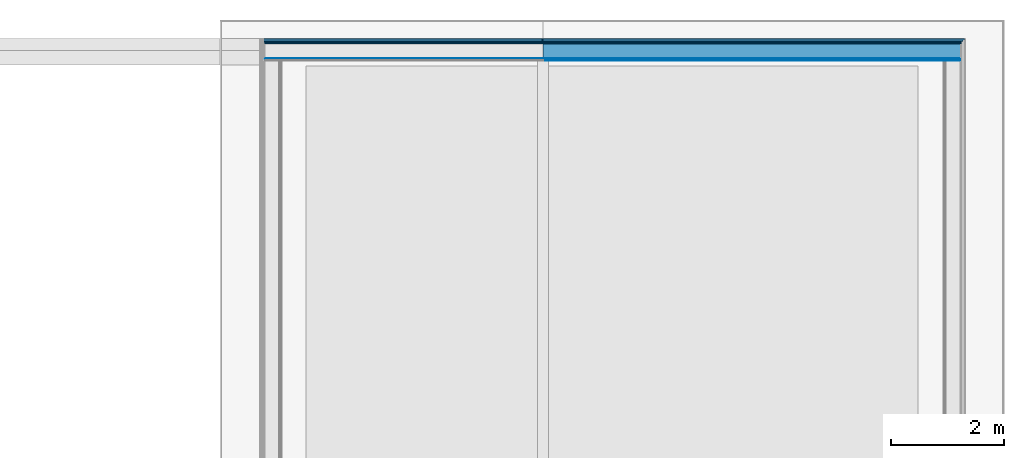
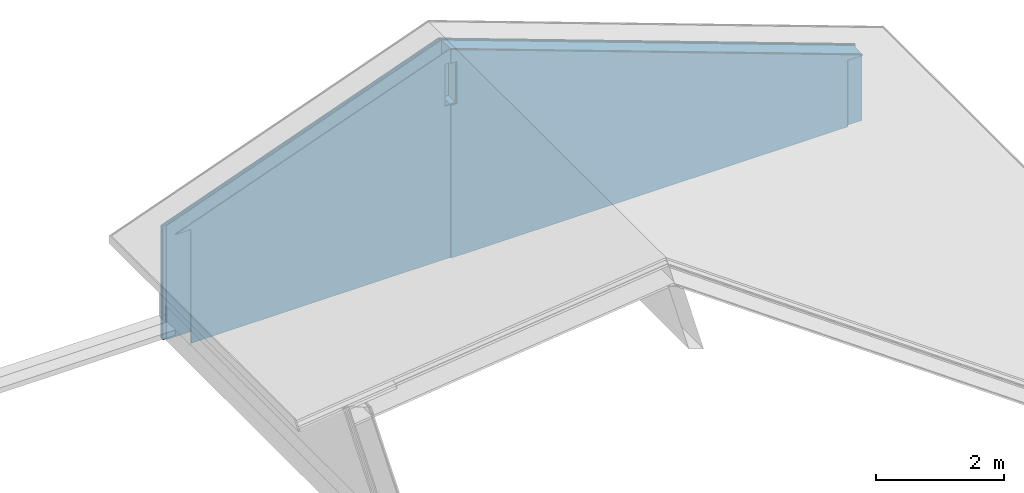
# One storey, part 10 of 12: 10 building element parts, 3 elements without a shape of their own.
"""IFC4 building model written with IfcOpenShell, lengths in millimetres."""

from ifc_helpers import new_model, entity, si_unit, converted_unit, derived_unit, direction, frame, origin_with_axes, place, context, subcontext, project, spatial, polygons, material, type_object, element, aggregate, save


model = new_model("IFC4")

# Units and contexts
model_context = context("Model", 3, precision=0.01, world=origin_with_axes(), true_north=direction((0.0, 1.0)))
body_context = subcontext(model_context, "Body", "Model", "MODEL_VIEW")
ifc_project = project(units=[si_unit("LENGTHUNIT", "METRE", prefix="MILLI"), si_unit("AREAUNIT", "SQUARE_METRE"), si_unit("VOLUMEUNIT", "CUBIC_METRE"), converted_unit("PLANEANGLEUNIT", "DEGREE", entity("IfcPlaneAngleMeasure", 0.0174532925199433), si_unit("PLANEANGLEUNIT", "RADIAN"), dimensions=[0, 0, 0, 0, 0, 0, 0]), converted_unit("TIMEUNIT", "Year", entity("IfcTimeMeasure", 31557600.0), si_unit("TIMEUNIT", "SECOND"), dimensions=[0, 0, 1, 0, 0, 0, 0]), si_unit("MASSUNIT", "GRAM", prefix="KILO"), si_unit("THERMODYNAMICTEMPERATUREUNIT", "DEGREE_CELSIUS"), si_unit("LUMINOUSINTENSITYUNIT", "LUMEN"), si_unit("ENERGYUNIT", "JOULE", prefix="MEGA"), derived_unit("THERMALCONDUCTANCEUNIT", [(si_unit("POWERUNIT", "WATT"), 1), (si_unit("LENGTHUNIT", "METRE"), -1), (si_unit("THERMODYNAMICTEMPERATUREUNIT", "KELVIN"), -1)]), derived_unit("SPECIFICHEATCAPACITYUNIT", [(si_unit("ENERGYUNIT", "JOULE"), 1), (si_unit("MASSUNIT", "GRAM", prefix="KILO"), -1), (si_unit("THERMODYNAMICTEMPERATUREUNIT", "KELVIN"), -1)]), derived_unit("MASSDENSITYUNIT", [(si_unit("MASSUNIT", "GRAM", prefix="KILO"), 1), (si_unit("VOLUMEUNIT", "CUBIC_METRE"), -1)])], contexts=[model_context])

# Site, building, storey
site_placement = place(None, origin_with_axes())
site = spatial("IfcSite", under=ifc_project, at=site_placement, Name="Gelände", CompositionType="ELEMENT")
building_placement = place(site_placement, origin_with_axes())
building = spatial("IfcBuilding", under=site, at=building_placement, Name="Gebäude", CompositionType="ELEMENT")
storey_placement = place(building_placement, frame((0.0, 0.0, 11600.0), z_axis=(0.0, 0.0, 1.0), x_axis=(1.0, 0.0, 0.0)))
storey = spatial("IfcBuildingStorey", under=building, at=storey_placement, Name="Dachaufsicht", CompositionType="ELEMENT", Elevation=11600.0)

# Wall, building element parts
wall_type = type_object("IfcWallType", Name="Aussenwand Typ 01 318", PredefinedType="NOTDEFINED")
wall_1_placement = place(storey_placement, frame((32857.99744477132, 37876.59728131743, 500.0), z_axis=(0.0, 0.0, 1.0), x_axis=(-1.0, 0.0, 0.0)))
wall_1 = element("IfcWall", 1, at=wall_1_placement, inside=storey, type_object=wall_type, Name="Wand-014", PredefinedType="NOTDEFINED")
ifc_material_1 = material(Name="Verputz Innen")
building_element_part_1_placement = place(wall_1_placement, origin_with_axes())
building_element_part_1 = element("IfcBuildingElementPart", 2, at=building_element_part_1_placement, material=ifc_material_1, Name="Verputz Innen", PredefinedType="NOTDEFINED", context=body_context, shape_type="Tessellation", body=[
    polygons([(7429.0000003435, 307.9999999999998, 0.0), (7429.0000003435, 307.9999999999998, 2903.934870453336), (7329.000000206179, 307.9999846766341, 2903.934870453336), (7329.000000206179, 307.9999846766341, 3703.934870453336), (7429.0000003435, 307.9999999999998, 3703.934870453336), (7429.0000003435, 307.9999999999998, 3964.658398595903), (18.00000043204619, 307.9999944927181, 1267.275017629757), (307.9999999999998, 307.9999846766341, 1267.275017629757), (307.9999999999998, 307.9999999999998, 0.0), (7429.0000003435, 317.9999999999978, 2903.934870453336), (7429.0000003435, 317.9999999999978, 0.0), (7329.000000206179, 318.0000160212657, 2903.934870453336), (7329.000000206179, 318.0000160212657, 3703.934870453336), (7429.0000003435, 317.9999999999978, 3703.934870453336), (7429.0000003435, 317.9999999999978, 3964.658398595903), (18.00000043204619, 318.0000160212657, 1267.275017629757), (307.9999999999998, 318.0000160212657, 1267.275017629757), (307.9999999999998, 317.9999999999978, 0.0)], [[[1, 2, 3, 4, 5, 6, 7, 8, 9]], [[10, 2, 1, 11]], [[2, 10, 12, 3]], [[3, 12, 13, 4]], [[14, 5, 4, 13]], [[14, 15, 6, 5]], [[6, 15, 16, 7]], [[16, 17, 8, 7]], [[9, 8, 17, 18]], [[11, 1, 9, 18]], [[15, 14, 13, 12, 10, 11, 18, 17, 16]]], closed=True),
])
ifc_material_2 = material(Name="Gipsfaserplatte GFP")
building_element_part_2_placement = place(wall_1_placement, origin_with_axes())
building_element_part_2 = element("IfcBuildingElementPart", 3, at=building_element_part_2_placement, material=ifc_material_2, Name="Gipsfaserplatte GFP", PredefinedType="NOTDEFINED", context=body_context, shape_type="Tessellation", body=[
    polygons([(7429.0000003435, 292.9999999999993, 0.0), (7429.0000003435, 292.9999999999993, 2903.934870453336), (7329.000000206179, 292.9999999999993, 2903.934870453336), (7329.000000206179, 292.9999999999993, 3703.934870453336), (7429.0000003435, 292.9999999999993, 3703.934870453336), (7429.0000003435, 292.9999999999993, 3964.658398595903), (18.00000043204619, 292.9999999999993, 1267.275017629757), (292.9999999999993, 292.9999999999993, 1267.275017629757), (292.9999999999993, 292.9999999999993, 0.0), (7429.0000003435, 307.9999999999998, 2903.934870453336), (7429.0000003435, 307.9999999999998, 0.0), (7329.000000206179, 307.9999846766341, 2903.934870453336), (7329.000000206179, 307.9999846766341, 3703.934870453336), (7429.0000003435, 307.9999999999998, 3703.934870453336), (7429.0000003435, 307.9999999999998, 3964.658398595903), (18.00000043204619, 307.9999944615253, 1267.275017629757), (292.9999999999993, 307.9999846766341, 1267.275017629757), (292.9999999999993, 307.9999999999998, 0.0)], [[[1, 2, 3, 4, 5, 6, 7, 8, 9]], [[10, 2, 1, 11]], [[2, 10, 12, 3]], [[3, 12, 13, 4]], [[14, 5, 4, 13]], [[14, 15, 6, 5]], [[6, 15, 16, 7]], [[16, 17, 8, 7]], [[9, 8, 17, 18]], [[11, 1, 9, 18]], [[15, 14, 13, 12, 10, 11, 18, 17, 16]]], closed=True),
])
building_element_part_3_placement = place(wall_1_placement, origin_with_axes())
building_element_part_3 = element("IfcBuildingElementPart", 4, at=building_element_part_3_placement, material=ifc_material_2, Name="Gipsfaserplatte GFP", PredefinedType="NOTDEFINED", context=body_context, shape_type="Tessellation", body=[
    polygons([(7429.0000003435, 292.9999999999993, 3964.658398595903), (7429.0000003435, 292.9999999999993, 3703.934870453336), (7329.000000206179, 292.9999999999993, 3703.934870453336), (7329.000000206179, 292.9999999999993, 2903.934870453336), (7429.0000003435, 292.9999999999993, 2903.934870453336), (7429.0000003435, 292.9999999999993, 0.0), (277.9999999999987, 292.9999999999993, 0.0), (277.9999999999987, 292.9999999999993, 1267.275017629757), (18.00000043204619, 293.0000000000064, 1267.275017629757), (7429.0000003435, 277.9999999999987, 3964.658398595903), (7429.0000003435, 277.9999999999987, 3703.934870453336), (7329.000000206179, 278.0000112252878, 3703.934870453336), (7329.000000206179, 278.0000112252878, 2903.934870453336), (7429.0000003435, 277.9999999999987, 2903.934870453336), (7429.0000003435, 277.9999999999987, 0.0), (277.9999999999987, 277.9999999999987, 0.0), (277.9999999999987, 278.0000112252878, 1267.275017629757), (18.00000043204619, 278.0000040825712, 1267.275017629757)], [[[1, 2, 3, 4, 5, 6, 7, 8, 9]], [[2, 1, 10, 11]], [[2, 11, 12, 3]], [[13, 4, 3, 12]], [[14, 5, 4, 13]], [[5, 14, 15, 6]], [[6, 15, 16, 7]], [[16, 17, 8, 7]], [[9, 8, 17, 18]], [[10, 1, 9, 18]], [[15, 14, 13, 12, 11, 10, 18, 17, 16]]], closed=True),
])
ifc_material_3 = material(Name="Ständer Konstruktion gedämmt")
building_element_part_4_placement = place(wall_1_placement, origin_with_axes())
building_element_part_4 = element("IfcBuildingElementPart", 5, at=building_element_part_4_placement, material=ifc_material_3, Name="Ständer Konstruktion gedämmt", PredefinedType="NOTDEFINED", context=body_context, shape_type="Tessellation", body=[
    polygons([(7429.0000003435, 18.00000000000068, 0.0), (7429.0000003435, 18.00000000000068, 3964.658398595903), (18.00000000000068, 18.0000001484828, 1267.275017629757), (18.00000000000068, 18.00000000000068, 0.0), (7429.0000003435, 277.9999999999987, 0.0), (7429.0000003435, 277.9999999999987, 2903.934870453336), (7429.0000003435, 58.00000000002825, 2903.934870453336), (7429.0000003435, 58.00000000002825, 3703.934870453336), (7429.0000003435, 277.9999999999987, 3703.934870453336), (7429.0000003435, 277.9999999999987, 3964.658398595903), (18.00000000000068, 278.0000112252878, 1267.275017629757), (18.00000000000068, 278.0000000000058, 0.0), (7329.000000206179, 278.0000112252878, 3703.934870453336), (7329.000000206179, 278.0000112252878, 2903.934870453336), (7329.000000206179, 58.00000000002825, 2903.934870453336), (7329.000000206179, 58.00000000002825, 3703.934870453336)], [[[1, 2, 3, 4]], [[5, 6, 7, 8, 9, 10, 2, 1]], [[2, 10, 11, 3]], [[11, 12, 4, 3]], [[5, 1, 4, 12]], [[6, 5, 12, 11, 10, 9, 13, 14]], [[7, 6, 14, 15]], [[7, 15, 16, 8]], [[13, 9, 8, 16]], [[14, 13, 16, 15]]], closed=True),
])
ifc_material_4 = material(Name="Grobspanplatte-OSB")
building_element_part_5_placement = place(wall_1_placement, origin_with_axes())
building_element_part_5 = element("IfcBuildingElementPart", 6, at=building_element_part_5_placement, material=ifc_material_4, Name="Grobspanplatte-OSB", PredefinedType="NOTDEFINED", context=body_context, shape_type="Tessellation", body=[
    polygons([(7429.0000003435, 0.0, 0.0), (7429.0000003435, 0.0, 3964.658398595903), (9.244160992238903e-09, 0.0, 1260.72355325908), (1.78879844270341e-06, 0.0, 0.0), (7429.0000003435, 18.00000000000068, 3964.658398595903), (7429.0000003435, 18.00000000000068, 0.0), (1.219980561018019e-06, 18.00000004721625, 1260.723553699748), (1.78879844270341e-06, 18.00000000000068, 0.0)], [[[1, 2, 3, 4]], [[5, 2, 1, 6]], [[2, 5, 7, 3]], [[7, 8, 4, 3]], [[6, 1, 4, 8]], [[5, 6, 8, 7]]], closed=True),
])
aggregate(wall_1, [building_element_part_1, building_element_part_2, building_element_part_3, building_element_part_4, building_element_part_5])

wall_2_placement = place(storey_placement, frame((25428.99744442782, 37876.59728131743, 500.0), z_axis=(0.0, 0.0, 1.0), x_axis=(-1.0, 0.0, 0.0)))
wall_2 = element("IfcWall", 7, at=wall_2_placement, inside=storey, type_object=wall_type, Name="Wand-014", PredefinedType="NOTDEFINED")
building_element_part_6_placement = place(wall_2_placement, origin_with_axes())
building_element_part_6 = element("IfcBuildingElementPart", 8, at=building_element_part_6_placement, material=ifc_material_2, Name="Gipsfaserplatte GFP", PredefinedType="NOTDEFINED", context=body_context, shape_type="Tessellation", body=[
    polygons([(4941.99999919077, 277.9999931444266, 2165.91752631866), (3.202416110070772e-08, 277.9999999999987, 3964.658423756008), (0.0, 277.9999999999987, 3703.934870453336), (99.99999986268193, 277.9999880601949, 3703.934870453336), (99.99999986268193, 277.9999880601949, 2903.934870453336), (0.0, 277.9999999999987, 2903.934870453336), (0.0, 277.9999999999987, 0.0), (4666.999999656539, 277.9999999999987, 0.0), (4666.999999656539, 277.9999880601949, 2165.91752631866), (4941.99999919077, 292.9999999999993, 2165.91752631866), (3.202416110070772e-08, 292.9999999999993, 3964.658423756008), (0.0, 292.9999999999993, 3703.934870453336), (99.99999986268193, 292.9999999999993, 3703.934870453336), (99.99999986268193, 292.9999999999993, 2903.934870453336), (0.0, 292.9999999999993, 2903.934870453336), (0.0, 292.9999999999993, 0.0), (4666.999999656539, 292.9999999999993, 0.0), (4666.999999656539, 292.9999999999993, 2165.91752631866)], [[[1, 2, 3, 4, 5, 6, 7, 8, 9]], [[2, 1, 10, 11]], [[2, 11, 12, 3]], [[3, 12, 13, 4]], [[4, 13, 14, 5]], [[6, 5, 14, 15]], [[15, 16, 7, 6]], [[17, 8, 7, 16]], [[9, 8, 17, 18]], [[10, 1, 9, 18]], [[11, 10, 18, 17, 16, 15, 14, 13, 12]]], closed=True),
])
building_element_part_7_placement = place(wall_2_placement, origin_with_axes())
building_element_part_7 = element("IfcBuildingElementPart", 9, at=building_element_part_7_placement, material=ifc_material_4, Name="Grobspanplatte-OSB", PredefinedType="NOTDEFINED", context=body_context, shape_type="Tessellation", body=[
    polygons([(4941.999999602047, 0.0, 2165.917526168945), (3.202416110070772e-08, 0.0, 3964.658423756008), (0.0, 0.0, 0.0), (4941.999999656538, 0.0, 0.0), (4941.999999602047, 18.00000655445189, 2165.917526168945), (3.202416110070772e-08, 18.00000000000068, 3964.658423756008), (0.0, 18.00000000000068, 0.0), (4941.999999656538, 18.00000000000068, 0.0)], [[[1, 2, 3, 4]], [[2, 1, 5, 6]], [[2, 6, 7, 3]], [[4, 3, 7, 8]], [[5, 1, 4, 8]], [[6, 5, 8, 7]]], closed=True),
])
aggregate(wall_2, [building_element_part_6, building_element_part_7])

# Curtain wall, building element parts
curtain_wall_type = type_object("IfcCurtainWallType", Name="Fassade Typ 02 - Vertikale Schalung 71", PredefinedType="NOTDEFINED")
curtain_wall_placement = place(storey_placement, frame((32928.99744408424, 37947.59728063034, 499.999999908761), z_axis=(0.0, 0.0, 1.0), x_axis=(-1.0, 0.0, 0.0)))
curtain_wall = element("IfcCurtainWall", 10, at=curtain_wall_placement, inside=storey, type_object=curtain_wall_type, Name="Wand-014", PredefinedType="NOTDEFINED")
ifc_material_5 = material(Name="Lattenrost vertikal")
building_element_part_8_placement = place(curtain_wall_placement, origin_with_axes())
building_element_part_8 = element("IfcBuildingElementPart", 11, at=building_element_part_8_placement, material=ifc_material_5, Name="Lattenrost vertikal", PredefinedType="NOTDEFINED", context=body_context, shape_type="Tessellation", body=[
    polygons([(12499.99999927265, 46.00000068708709, 466.1732444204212), (70.99999999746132, 45.99999700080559, 466.1732422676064), (70.99999999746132, 46.00000000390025, 0.0), (12499.99999931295, 46.00000068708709, 0.0), (71.00000016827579, 71.00001806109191, 468.641173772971), (12499.9999993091, 70.99999993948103, 468.641173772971), (70.99999999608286, 71.00000000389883, 0.0), (12499.99999931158, 71.00000068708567, 0.0)], [[[1, 2, 3, 4]], [[5, 2, 1, 6]], [[2, 5, 7, 3]], [[4, 3, 7, 8]], [[6, 1, 4, 8]], [[5, 6, 8, 7]]], closed=True),
    polygons([(12499.999999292, 46.00000068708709, 2144.807252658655), (7517.999999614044, 45.99999717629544, 3958.106959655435), (7499.999999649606, 45.99999716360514, 3958.106959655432), (70.99999999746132, 45.99999192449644, 1254.172089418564), (70.99999999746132, 45.99999698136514, 469.1902154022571), (12499.99999927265, 46.00000068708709, 469.1902176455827), (7517.999999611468, 71.00000447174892, 3958.106959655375), (12499.99999931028, 71.0000002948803, 2144.807252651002), (7499.99999964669, 71.00000448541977, 3958.106959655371), (70.9999999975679, 71.0000102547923, 1254.172089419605), (70.99999999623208, 68.30001690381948, 501.6508769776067), (70.99999999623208, 68.30001690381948, 471.4821269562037), (71.00000016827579, 71.00001806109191, 501.6508769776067), (12499.99999930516, 68.29999878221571, 471.4821269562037), (12499.99999930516, 68.29999878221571, 501.6508769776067), (12499.9999993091, 70.99999993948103, 501.6508769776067)], [[[1, 2, 3, 4, 5, 6]], [[7, 2, 1, 8]], [[2, 7, 9, 3]], [[4, 3, 9, 10]], [[11, 12, 5, 4, 10, 13]], [[12, 14, 6, 5]], [[8, 1, 6, 14, 15, 16]], [[7, 8, 16, 13, 10, 9]], [[15, 14, 12, 11]], [[16, 15, 11, 13]]], closed=True),
])
ifc_material_6 = material(Name="Lattenrost horizontal")
building_element_part_9_placement = place(curtain_wall_placement, origin_with_axes())
building_element_part_9 = element("IfcBuildingElementPart", 12, at=building_element_part_9_placement, material=ifc_material_6, Name="Lattenrost horizontal", PredefinedType="NOTDEFINED", context=body_context, shape_type="Tessellation", body=[
    polygons([(12499.9999992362, 21.00000068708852, 463.7053149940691), (45.99999999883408, 21.00000506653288, 463.7053136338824), (45.99999999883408, 21.00000000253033, 0.0), (12499.99999931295, 21.00000068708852, 0.0), (45.99998948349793, 46.00000741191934, 466.1732432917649), (12499.99999927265, 46.00000068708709, 466.1732444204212), (45.99999999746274, 46.00000000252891, 0.0), (12499.99999931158, 46.00000068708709, 0.0)], [[[1, 2, 3, 4]], [[5, 2, 1, 6]], [[2, 5, 7, 3]], [[4, 3, 7, 8]], [[6, 1, 4, 8]], [[5, 6, 8, 7]]], closed=True),
    polygons([(12499.99999927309, 21.00000068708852, 2144.807252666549), (7517.999999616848, 21.000005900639, 3958.106959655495), (7499.999999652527, 21.00000591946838, 3958.106959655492), (45.99999999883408, 21.00001359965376, 1245.072833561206), (45.99999999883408, 21.0000050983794, 466.6208109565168), (12499.9999992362, 21.00000068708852, 466.6208123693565), (7517.999999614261, 45.99999717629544, 3958.106959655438), (12499.99999929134, 46.00000068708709, 2144.807252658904), (7499.999999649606, 45.99999716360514, 3958.106959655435), (45.99999978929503, 45.99999218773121, 1245.072833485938), (45.99998946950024, 46.00000739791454, 469.1902164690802), (12499.99999927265, 46.00000068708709, 469.1902176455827)], [[[1, 2, 3, 4, 5, 6]], [[7, 2, 1, 8]], [[2, 7, 9, 3]], [[4, 3, 9, 10]], [[10, 11, 5, 4]], [[11, 12, 6, 5]], [[8, 1, 6, 12]], [[7, 8, 12, 11, 10, 9]]], closed=True),
])
ifc_material_7 = material(Name="Falzschalung vertikal")
building_element_part_10_placement = place(curtain_wall_placement, origin_with_axes())
building_element_part_10 = element("IfcBuildingElementPart", 13, at=building_element_part_10_placement, material=ifc_material_7, Name="Falzschalung vertikal", PredefinedType="NOTDEFINED", context=body_context, shape_type="Tessellation", body=[
    polygons([(12499.99999920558, 6.870877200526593e-07, 461.6322542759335), (20.99999999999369, 0.0, 461.6322524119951), (20.99999999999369, 0.0, 0.0), (12499.99999931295, 6.870877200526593e-07, 0.0), (20.99999351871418, 21.00001148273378, 463.7053142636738), (12499.9999992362, 21.00000068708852, 463.7053149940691), (20.99999999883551, 21.00000000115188, 0.0), (12499.9999993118, 21.00000068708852, 0.0)], [[[1, 2, 3, 4]], [[5, 2, 1, 6]], [[2, 5, 7, 3]], [[4, 3, 7, 8]], [[6, 1, 4, 8]], [[5, 6, 8, 7]]], closed=True),
    polygons([(12499.99999925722, 6.870877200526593e-07, 2144.807252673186), (7517.999999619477, 4.132445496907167e-07, 3958.106959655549), (7499.999999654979, 4.122497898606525e-07, 3958.106959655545), (20.99999999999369, 0.0, 1235.973577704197), (20.99999999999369, 0.0, 464.4625099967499), (12499.99999920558, 6.870877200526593e-07, 464.4625119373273), (7517.999999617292, 21.000005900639, 3958.106959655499), (12499.99999927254, 21.00000068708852, 2144.807252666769), (7499.999999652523, 21.00000591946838, 3958.106959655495), (20.99999979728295, 21.00001369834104, 1235.97357763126), (20.99999353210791, 21.00001149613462, 466.620811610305), (12499.9999992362, 21.00000068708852, 466.6208123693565)], [[[1, 2, 3, 4, 5, 6]], [[7, 2, 1, 8]], [[2, 7, 9, 3]], [[4, 3, 9, 10]], [[10, 11, 5, 4]], [[11, 12, 6, 5]], [[8, 1, 6, 12]], [[7, 8, 12, 11, 10, 9]]], closed=True),
])
aggregate(curtain_wall, [building_element_part_8, building_element_part_9, building_element_part_10])

save(model, "model.ifc")
